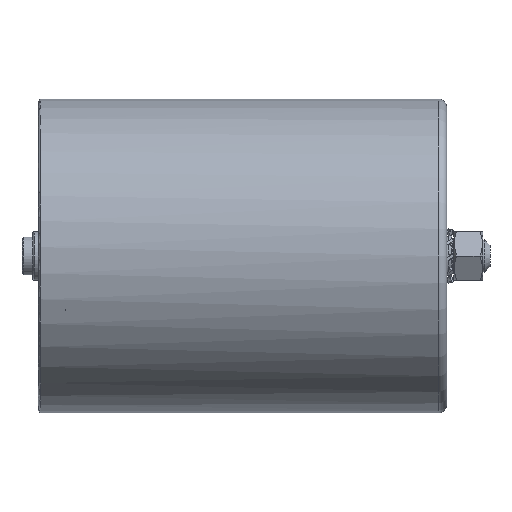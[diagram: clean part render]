
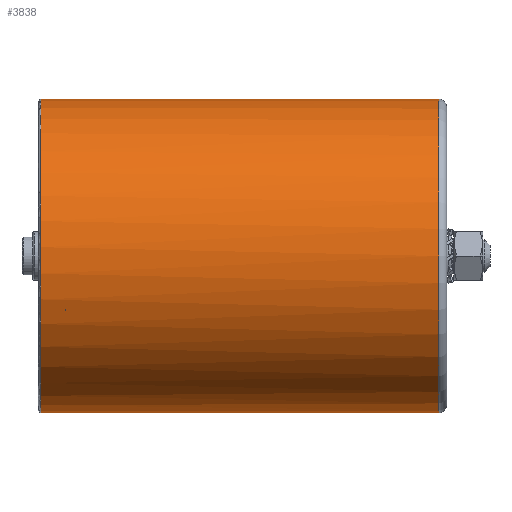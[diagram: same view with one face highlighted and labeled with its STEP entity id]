
A CAD part, left-side view. The second image highlights one B-rep face of the part: STEP entity #3838.
In plain terms, the highlighted cylindrical face has radius 58 mm (diameter 116 mm), a partial arc.
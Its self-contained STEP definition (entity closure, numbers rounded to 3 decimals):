
#303 = CARTESIAN_POINT ( 'NONE',  ( 0., 3., -58. ) ) ;
#514 = CARTESIAN_POINT ( 'NONE',  ( 0., 3., 58. ) ) ;
#821 = EDGE_CURVE ( 'NONE', #5100, #12154, #8252, .T. ) ;
#863 = VECTOR ( 'NONE', #8305, 1000. ) ;
#1222 = CIRCLE ( 'NONE', #11839, 58. ) ;
#1609 = DIRECTION ( 'NONE',  ( 0., -1., 0. ) ) ;
#1674 = CYLINDRICAL_SURFACE ( 'NONE', #12325, 58. ) ;
#1821 = VECTOR ( 'NONE', #6215, 1000. ) ;
#2315 = CARTESIAN_POINT ( 'NONE',  ( 0., 141., -58. ) ) ;
#2708 = ORIENTED_EDGE ( 'NONE', *, *, #8071, .T. ) ;
#2762 = DIRECTION ( 'NONE',  ( -0.707, 0., -0.707 ) ) ;
#3452 = CIRCLE ( 'NONE', #10177, 58. ) ;
#3534 = DIRECTION ( 'NONE',  ( 0., 0., -1. ) ) ;
#3577 = VERTEX_POINT ( 'NONE', #7765 ) ;
#3723 = FACE_OUTER_BOUND ( 'NONE', #4389, .T. ) ;
#3820 = CARTESIAN_POINT ( 'NONE',  ( 0., 150., 0. ) ) ;
#3838 = ADVANCED_FACE ( 'NONE', ( #3723 ), #1674, .T. ) ;
#4389 = EDGE_LOOP ( 'NONE', ( #8772, #12426, #6018, #2708, #12393 ) ) ;
#4934 = VERTEX_POINT ( 'NONE', #303 ) ;
#5007 = EDGE_CURVE ( 'NONE', #8634, #3577, #5555, .T. ) ;
#5100 = VERTEX_POINT ( 'NONE', #11844 ) ;
#5555 = CIRCLE ( 'NONE', #8208, 58. ) ;
#5816 = DIRECTION ( 'NONE',  ( 0., -1., 0. ) ) ;
#6018 = ORIENTED_EDGE ( 'NONE', *, *, #5007, .T. ) ;
#6215 = DIRECTION ( 'NONE',  ( 0., -1., 0. ) ) ;
#7296 = CARTESIAN_POINT ( 'NONE',  ( 0., 141., 58. ) ) ;
#7723 = DIRECTION ( 'NONE',  ( -0.707, 0., -0.707 ) ) ;
#7765 = CARTESIAN_POINT ( 'NONE',  ( 0., 150., -58. ) ) ;
#8071 = EDGE_CURVE ( 'NONE', #3577, #4934, #10888, .T. ) ;
#8208 = AXIS2_PLACEMENT_3D ( 'NONE', #10613, #8509, #2762 ) ;
#8252 = LINE ( 'NONE', #7296, #863 ) ;
#8305 = DIRECTION ( 'NONE',  ( 0., -1., 0. ) ) ;
#8509 = DIRECTION ( 'NONE',  ( 0., -1., 0. ) ) ;
#8634 = VERTEX_POINT ( 'NONE', #9020 ) ;
#8734 = CARTESIAN_POINT ( 'NONE',  ( 0., 3., 0. ) ) ;
#8772 = ORIENTED_EDGE ( 'NONE', *, *, #821, .F. ) ;
#8802 = DIRECTION ( 'NONE',  ( 0., 1., 0. ) ) ;
#8875 = EDGE_CURVE ( 'NONE', #4934, #12154, #1222, .T. ) ;
#8953 = EDGE_CURVE ( 'NONE', #5100, #8634, #3452, .T. ) ;
#9020 = CARTESIAN_POINT ( 'NONE',  ( -41.012, 150., -41.012 ) ) ;
#9343 = CARTESIAN_POINT ( 'NONE',  ( 0., 141., 0. ) ) ;
#10177 = AXIS2_PLACEMENT_3D ( 'NONE', #3820, #5816, #7723 ) ;
#10347 = DIRECTION ( 'NONE',  ( 0., 0., 1. ) ) ;
#10613 = CARTESIAN_POINT ( 'NONE',  ( 0., 150., 0. ) ) ;
#10888 = LINE ( 'NONE', #2315, #1821 ) ;
#11839 = AXIS2_PLACEMENT_3D ( 'NONE', #8734, #8802, #10347 ) ;
#11844 = CARTESIAN_POINT ( 'NONE',  ( 0., 150., 58. ) ) ;
#12154 = VERTEX_POINT ( 'NONE', #514 ) ;
#12325 = AXIS2_PLACEMENT_3D ( 'NONE', #9343, #1609, #3534 ) ;
#12393 = ORIENTED_EDGE ( 'NONE', *, *, #8875, .T. ) ;
#12426 = ORIENTED_EDGE ( 'NONE', *, *, #8953, .T. ) ;
